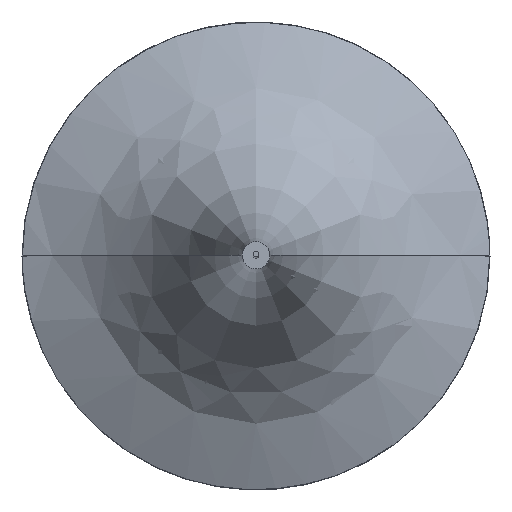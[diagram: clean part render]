
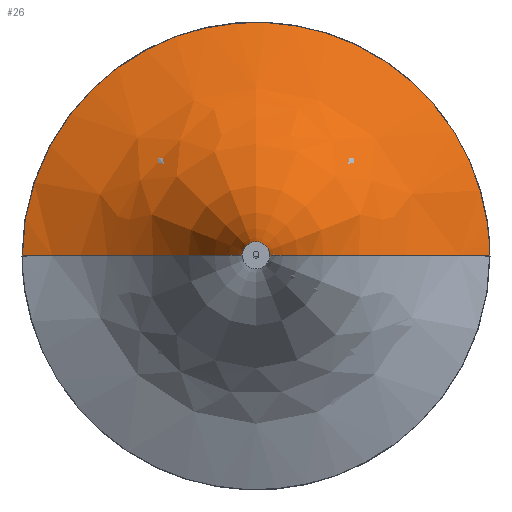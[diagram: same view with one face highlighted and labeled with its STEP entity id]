
A CAD part, top view. The second image highlights one B-rep face of the part: STEP entity #26.
In plain terms, the highlighted free-form (B-spline) face has degree [3, 2] with [10, 5] control points.
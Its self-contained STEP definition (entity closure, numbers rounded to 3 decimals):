
#26=ADVANCED_FACE('',(#42),#202,.T.);
#42=FACE_OUTER_BOUND('',#58,.T.);
#58=EDGE_LOOP('',(#77,#78,#79,#80));
#77=ORIENTED_EDGE('',*,*,#129,.F.);
#78=ORIENTED_EDGE('',*,*,#130,.T.);
#79=ORIENTED_EDGE('',*,*,#134,.T.);
#80=ORIENTED_EDGE('',*,*,#140,.F.);
#129=EDGE_CURVE('',#185,#190,#165,.T.);
#130=EDGE_CURVE('',#185,#188,#157,.T.);
#134=EDGE_CURVE('',#188,#191,#166,.T.);
#140=EDGE_CURVE('',#190,#191,#162,.T.);
#157=B_SPLINE_CURVE_WITH_KNOTS('',3,(#680,#681,#682,#683,#684,#685,#686,
#687,#688,#689),.UNSPECIFIED.,.F.,.F.,(4,1,1,1,1,1,1,4),(-410.217,
-409.217,-408.217,-407.217,-406.217,
-405.217,-404.217,-403.217),.UNSPECIFIED.);
#162=B_SPLINE_CURVE_WITH_KNOTS('',3,(#749,#750,#751,#752,#753,#754,#755,
#756,#757,#758),.UNSPECIFIED.,.F.,.F.,(4,1,1,1,1,1,1,4),(-410.217,
-409.217,-408.217,-407.217,-406.217,
-405.217,-404.217,-403.217),.UNSPECIFIED.);
#165=(
BOUNDED_CURVE()
B_SPLINE_CURVE(2,(#675,#676,#677,#678,#679),.UNSPECIFIED.,.F.,.F.)
B_SPLINE_CURVE_WITH_KNOTS((3,2,3),(0.,353.429,706.858),
 .UNSPECIFIED.)
CURVE()
GEOMETRIC_REPRESENTATION_ITEM()
RATIONAL_B_SPLINE_CURVE((1.,0.707,1.,0.707,1.))
REPRESENTATION_ITEM('')
);
#166=(
BOUNDED_CURVE()
B_SPLINE_CURVE(2,(#722,#723,#724,#725,#726),.UNSPECIFIED.,.F.,.F.)
B_SPLINE_CURVE_WITH_KNOTS((3,2,3),(0.,353.429,706.858),
 .UNSPECIFIED.)
CURVE()
GEOMETRIC_REPRESENTATION_ITEM()
RATIONAL_B_SPLINE_CURVE((1.,0.707,1.,0.707,1.))
REPRESENTATION_ITEM('')
);
#185=VERTEX_POINT('',#667);
#188=VERTEX_POINT('',#670);
#190=VERTEX_POINT('',#672);
#191=VERTEX_POINT('',#673);
#202=(
BOUNDED_SURFACE()
B_SPLINE_SURFACE(3,2,((#257,#258,#259,#260,#261),(#262,#263,#264,#265,#266),
(#267,#268,#269,#270,#271),(#272,#273,#274,#275,#276),(#277,#278,#279,#280,
#281),(#282,#283,#284,#285,#286),(#287,#288,#289,#290,#291),(#292,#293,
#294,#295,#296),(#297,#298,#299,#300,#301),(#302,#303,#304,#305,#306)),
 .UNSPECIFIED.,.F.,.F.,.F.)
B_SPLINE_SURFACE_WITH_KNOTS((4,1,1,1,1,1,1,4),(3,2,3),(-410.217,
-409.217,-408.217,-407.217,-406.217,
-405.217,-404.217,-403.217),(0.,353.429,
706.858),.UNSPECIFIED.)
GEOMETRIC_REPRESENTATION_ITEM()
RATIONAL_B_SPLINE_SURFACE(((1.,0.707,1.,0.707,1.),
(1.,0.707,1.,0.707,1.),(1.,0.707,1.,
0.707,1.),(1.,0.707,1.,0.707,1.),(1.,
0.707,1.,0.707,1.),(1.,0.707,1.,0.707,
1.),(1.,0.707,1.,0.707,1.),(1.,0.707,
1.,0.707,1.),(1.,0.707,1.,0.707,1.),
(1.,0.707,1.,0.707,1.)))
REPRESENTATION_ITEM('')
SURFACE()
);
#257=CARTESIAN_POINT('',(1611.144,1395.294,1.456));
#258=CARTESIAN_POINT('',(1611.144,1620.294,1.456));
#259=CARTESIAN_POINT('',(1836.144,1620.294,1.456));
#260=CARTESIAN_POINT('',(2061.144,1620.294,1.456));
#261=CARTESIAN_POINT('',(2061.144,1395.294,1.456));
#262=CARTESIAN_POINT('',(1633.833,1395.294,7.103));
#263=CARTESIAN_POINT('',(1633.833,1597.605,7.103));
#264=CARTESIAN_POINT('',(1836.144,1597.605,7.103));
#265=CARTESIAN_POINT('',(2038.455,1597.605,7.103));
#266=CARTESIAN_POINT('',(2038.455,1395.294,7.103));
#267=CARTESIAN_POINT('',(1676.631,1395.294,26.999));
#268=CARTESIAN_POINT('',(1676.631,1554.806,26.999));
#269=CARTESIAN_POINT('',(1836.144,1554.806,26.999));
#270=CARTESIAN_POINT('',(1995.657,1554.806,26.999));
#271=CARTESIAN_POINT('',(1995.657,1395.294,26.999));
#272=CARTESIAN_POINT('',(1730.308,1395.294,72.221));
#273=CARTESIAN_POINT('',(1730.308,1501.13,72.221));
#274=CARTESIAN_POINT('',(1836.144,1501.13,72.221));
#275=CARTESIAN_POINT('',(1941.98,1501.13,72.221));
#276=CARTESIAN_POINT('',(1941.98,1395.294,72.221));
#277=CARTESIAN_POINT('',(1771.62,1395.294,128.946));
#278=CARTESIAN_POINT('',(1771.62,1459.818,128.946));
#279=CARTESIAN_POINT('',(1836.144,1459.818,128.946));
#280=CARTESIAN_POINT('',(1900.668,1459.818,128.946));
#281=CARTESIAN_POINT('',(1900.668,1395.294,128.946));
#282=CARTESIAN_POINT('',(1796.482,1395.294,194.017));
#283=CARTESIAN_POINT('',(1796.482,1434.956,194.017));
#284=CARTESIAN_POINT('',(1836.144,1434.956,194.017));
#285=CARTESIAN_POINT('',(1875.806,1434.956,194.017));
#286=CARTESIAN_POINT('',(1875.806,1395.294,194.017));
#287=CARTESIAN_POINT('',(1811.395,1395.294,261.727));
#288=CARTESIAN_POINT('',(1811.395,1420.043,261.727));
#289=CARTESIAN_POINT('',(1836.144,1420.043,261.727));
#290=CARTESIAN_POINT('',(1860.893,1420.043,261.727));
#291=CARTESIAN_POINT('',(1860.893,1395.294,261.727));
#292=CARTESIAN_POINT('',(1820.175,1395.294,330.424));
#293=CARTESIAN_POINT('',(1820.175,1411.263,330.424));
#294=CARTESIAN_POINT('',(1836.144,1411.263,330.424));
#295=CARTESIAN_POINT('',(1852.113,1411.263,330.424));
#296=CARTESIAN_POINT('',(1852.113,1395.294,330.424));
#297=CARTESIAN_POINT('',(1822.747,1395.294,376.517));
#298=CARTESIAN_POINT('',(1822.747,1408.691,376.517));
#299=CARTESIAN_POINT('',(1836.144,1408.691,376.517));
#300=CARTESIAN_POINT('',(1849.541,1408.691,376.517));
#301=CARTESIAN_POINT('',(1849.541,1395.294,376.517));
#302=CARTESIAN_POINT('',(1822.95,1395.294,399.58));
#303=CARTESIAN_POINT('',(1822.95,1408.488,399.58));
#304=CARTESIAN_POINT('',(1836.144,1408.488,399.58));
#305=CARTESIAN_POINT('',(1849.338,1408.488,399.58));
#306=CARTESIAN_POINT('',(1849.338,1395.294,399.58));
#667=CARTESIAN_POINT('',(1611.144,1395.294,1.456));
#670=CARTESIAN_POINT('',(1822.95,1395.294,399.58));
#672=CARTESIAN_POINT('',(2061.144,1395.294,1.456));
#673=CARTESIAN_POINT('',(1849.338,1395.294,399.58));
#675=CARTESIAN_POINT('',(1611.144,1395.294,1.456));
#676=CARTESIAN_POINT('',(1611.144,1620.294,1.456));
#677=CARTESIAN_POINT('',(1836.144,1620.294,1.456));
#678=CARTESIAN_POINT('',(2061.144,1620.294,1.456));
#679=CARTESIAN_POINT('',(2061.144,1395.294,1.456));
#680=CARTESIAN_POINT('',(1611.144,1395.294,1.456));
#681=CARTESIAN_POINT('',(1633.833,1395.294,7.103));
#682=CARTESIAN_POINT('',(1676.631,1395.294,26.999));
#683=CARTESIAN_POINT('',(1730.308,1395.294,72.221));
#684=CARTESIAN_POINT('',(1771.62,1395.294,128.946));
#685=CARTESIAN_POINT('',(1796.482,1395.294,194.017));
#686=CARTESIAN_POINT('',(1811.395,1395.294,261.727));
#687=CARTESIAN_POINT('',(1820.175,1395.294,330.424));
#688=CARTESIAN_POINT('',(1822.747,1395.294,376.517));
#689=CARTESIAN_POINT('',(1822.95,1395.294,399.58));
#722=CARTESIAN_POINT('',(1822.95,1395.294,399.58));
#723=CARTESIAN_POINT('',(1822.95,1408.488,399.58));
#724=CARTESIAN_POINT('',(1836.144,1408.488,399.58));
#725=CARTESIAN_POINT('',(1849.338,1408.488,399.58));
#726=CARTESIAN_POINT('',(1849.338,1395.294,399.58));
#749=CARTESIAN_POINT('',(2061.144,1395.294,1.456));
#750=CARTESIAN_POINT('',(2038.455,1395.294,7.103));
#751=CARTESIAN_POINT('',(1995.657,1395.294,26.999));
#752=CARTESIAN_POINT('',(1941.98,1395.294,72.221));
#753=CARTESIAN_POINT('',(1900.668,1395.294,128.946));
#754=CARTESIAN_POINT('',(1875.806,1395.294,194.017));
#755=CARTESIAN_POINT('',(1860.893,1395.294,261.727));
#756=CARTESIAN_POINT('',(1852.113,1395.294,330.424));
#757=CARTESIAN_POINT('',(1849.541,1395.294,376.517));
#758=CARTESIAN_POINT('',(1849.338,1395.294,399.58));
